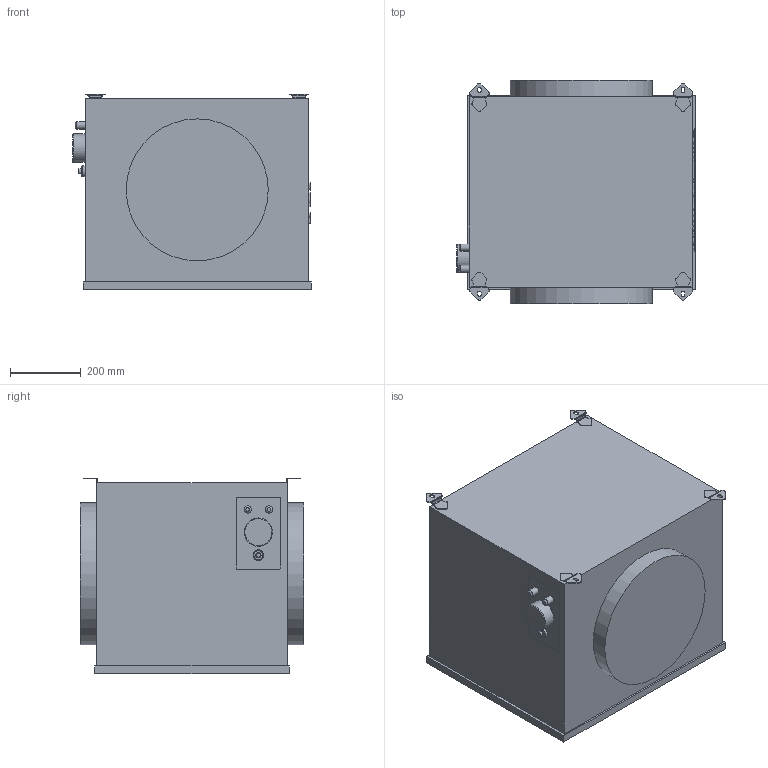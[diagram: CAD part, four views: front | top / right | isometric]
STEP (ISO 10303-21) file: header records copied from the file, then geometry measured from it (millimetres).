
FILE_DESCRIPTION(/* description */ (''),/* implementation_level */ '2;1');
FILE_NAME(/* name */ 'D:\Piotr - Dokumenty\Modele uproszczone\AFB EC\AFB_EC_400\AFB_EC_400.stp',/* time_stamp */ '2021-03-23T10:54:12+01:00',/* author */ ('Piotr.Nowotniak'),/* organization */ (''),/* preprocessor_version */ 'ST-DEVELOPER v18',/* originating_system */ 'Autodesk Inventor 2020',/* authorisation */ '');
FILE_SCHEMA (('AUTOMOTIVE_DESIGN { 1 0 10303 214 3 1 1 }'));
Length unit declared in the file: millimetre
Products named in the file (1): AFB_EC_400
Bounding box: 672.5 x 629.6 x 550.96 mm (x, y, z)
Volume: 194411357.3 mm3; surface area: 2115788.9 mm2
Topology: 1 solids, 1 shells, 790 faces, 2176 edges, 1444 vertices
Faces by surface type: bspline 370, plane 332, cylinder 83, torus 5
Full cylindrical faces by diameter (mm): 15 x1, 20.2 x2, 30 x1, 80 x1, 400 x2
Entity records: 31280 total; most frequent: CARTESIAN_POINT 13254, ORIENTED_EDGE 4352, DIRECTION 2439, EDGE_CURVE 2176, VERTEX_POINT 1444, LINE 1275, VECTOR 1275, EDGE_LOOP 854
